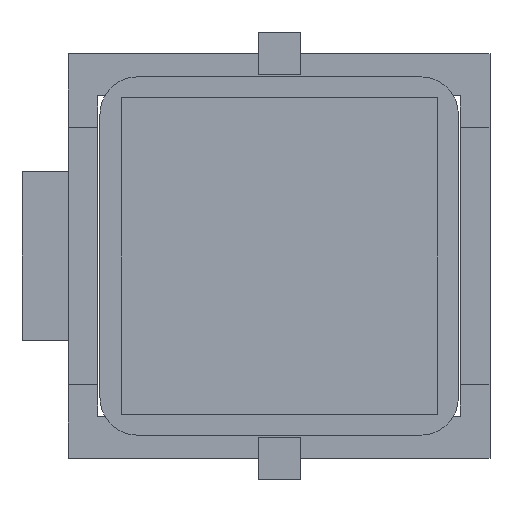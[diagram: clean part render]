
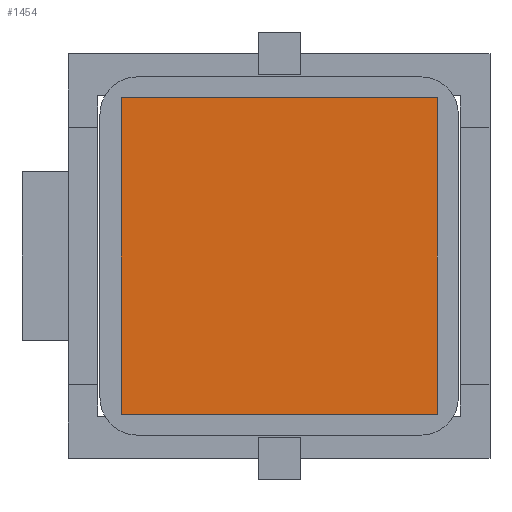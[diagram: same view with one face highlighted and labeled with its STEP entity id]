
A CAD part, front view. The second image highlights one B-rep face of the part: STEP entity #1454.
In plain terms, the highlighted planar face has unit normal (0, -1, 0).
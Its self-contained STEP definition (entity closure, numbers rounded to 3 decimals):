
#411 = DIRECTION ( 'NONE',  ( 1., 0., 0. ) ) ;
#477 = EDGE_CURVE ( 'NONE', #767, #1057, #1215, .T. ) ;
#497 = VECTOR ( 'NONE', #3180, 1000. ) ;
#581 = VECTOR ( 'NONE', #411, 1000. ) ;
#684 = CARTESIAN_POINT ( 'NONE',  ( -3.413, -13.936, 14.725 ) ) ;
#767 = VERTEX_POINT ( 'NONE', #1336 ) ;
#888 = CARTESIAN_POINT ( 'NONE',  ( -3.413, -13.936, -0.275 ) ) ;
#929 = AXIS2_PLACEMENT_3D ( 'NONE', #684, #4226, #4512 ) ;
#1057 = VERTEX_POINT ( 'NONE', #3476 ) ;
#1215 = LINE ( 'NONE', #4334, #581 ) ;
#1259 = VERTEX_POINT ( 'NONE', #1459 ) ;
#1336 = CARTESIAN_POINT ( 'NONE',  ( -3.413, -13.936, 14.725 ) ) ;
#1354 = ORIENTED_EDGE ( 'NONE', *, *, #477, .F. ) ;
#1446 = LINE ( 'NONE', #1497, #2657 ) ;
#1454 = ADVANCED_FACE ( 'NONE', ( #2317 ), #2028, .F. ) ;
#1459 = CARTESIAN_POINT ( 'NONE',  ( 11.587, -13.936, -0.275 ) ) ;
#1478 = DIRECTION ( 'NONE',  ( 0., 0., -1. ) ) ;
#1497 = CARTESIAN_POINT ( 'NONE',  ( -3.413, -13.936, -0.275 ) ) ;
#1501 = CARTESIAN_POINT ( 'NONE',  ( -3.413, -13.936, -0.275 ) ) ;
#1548 = EDGE_CURVE ( 'NONE', #1057, #1259, #4416, .T. ) ;
#2028 = PLANE ( 'NONE',  #929 ) ;
#2188 = ORIENTED_EDGE ( 'NONE', *, *, #3704, .F. ) ;
#2230 = VERTEX_POINT ( 'NONE', #888 ) ;
#2274 = CARTESIAN_POINT ( 'NONE',  ( 11.587, -13.936, -0.275 ) ) ;
#2301 = EDGE_CURVE ( 'NONE', #1259, #2230, #1446, .T. ) ;
#2317 = FACE_OUTER_BOUND ( 'NONE', #4158, .T. ) ;
#2657 = VECTOR ( 'NONE', #4259, 1000. ) ;
#2823 = LINE ( 'NONE', #1501, #497 ) ;
#3180 = DIRECTION ( 'NONE',  ( 0., 0., 1. ) ) ;
#3347 = ORIENTED_EDGE ( 'NONE', *, *, #1548, .F. ) ;
#3476 = CARTESIAN_POINT ( 'NONE',  ( 11.587, -13.936, 14.725 ) ) ;
#3511 = VECTOR ( 'NONE', #1478, 1000. ) ;
#3610 = ORIENTED_EDGE ( 'NONE', *, *, #2301, .F. ) ;
#3704 = EDGE_CURVE ( 'NONE', #2230, #767, #2823, .T. ) ;
#4158 = EDGE_LOOP ( 'NONE', ( #2188, #3610, #3347, #1354 ) ) ;
#4226 = DIRECTION ( 'NONE',  ( 0., 1., 0. ) ) ;
#4259 = DIRECTION ( 'NONE',  ( -1., 0., 0. ) ) ;
#4334 = CARTESIAN_POINT ( 'NONE',  ( -3.413, -13.936, 14.725 ) ) ;
#4416 = LINE ( 'NONE', #2274, #3511 ) ;
#4512 = DIRECTION ( 'NONE',  ( 0., 0., 1. ) ) ;
